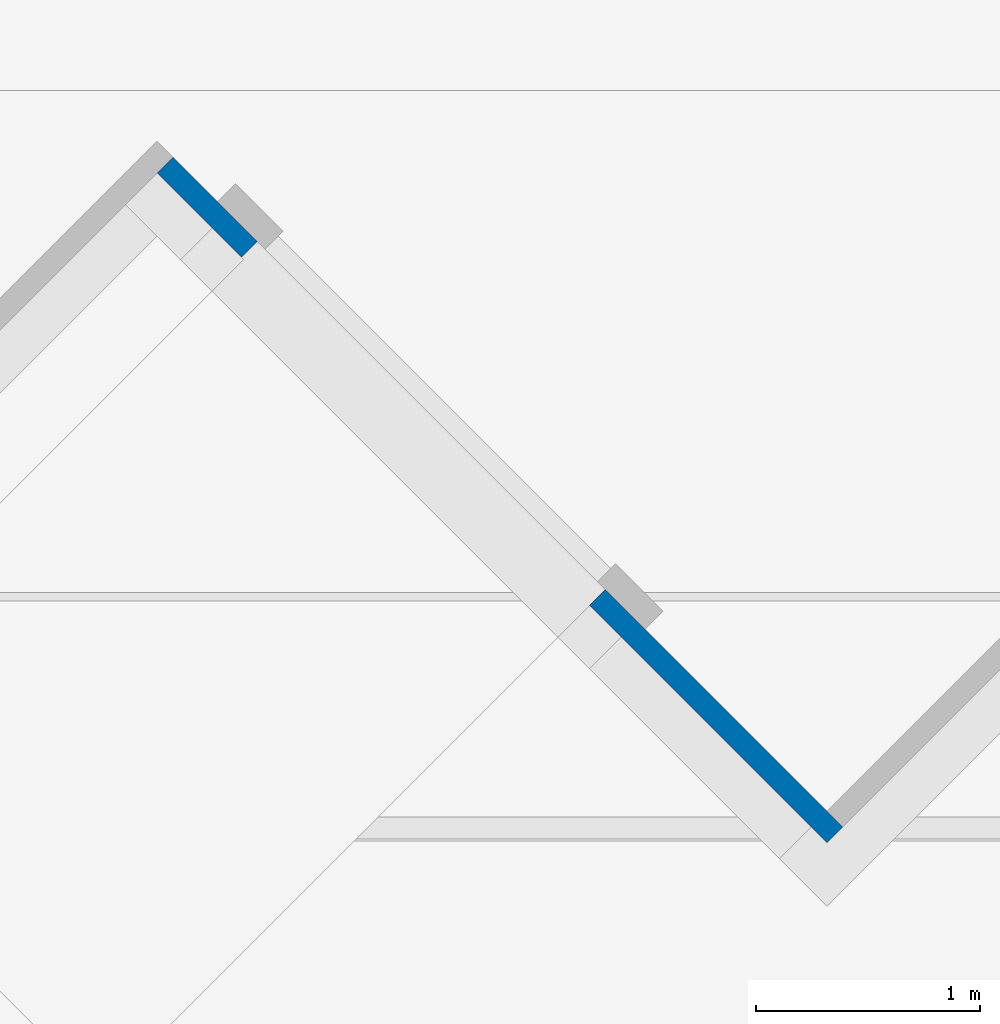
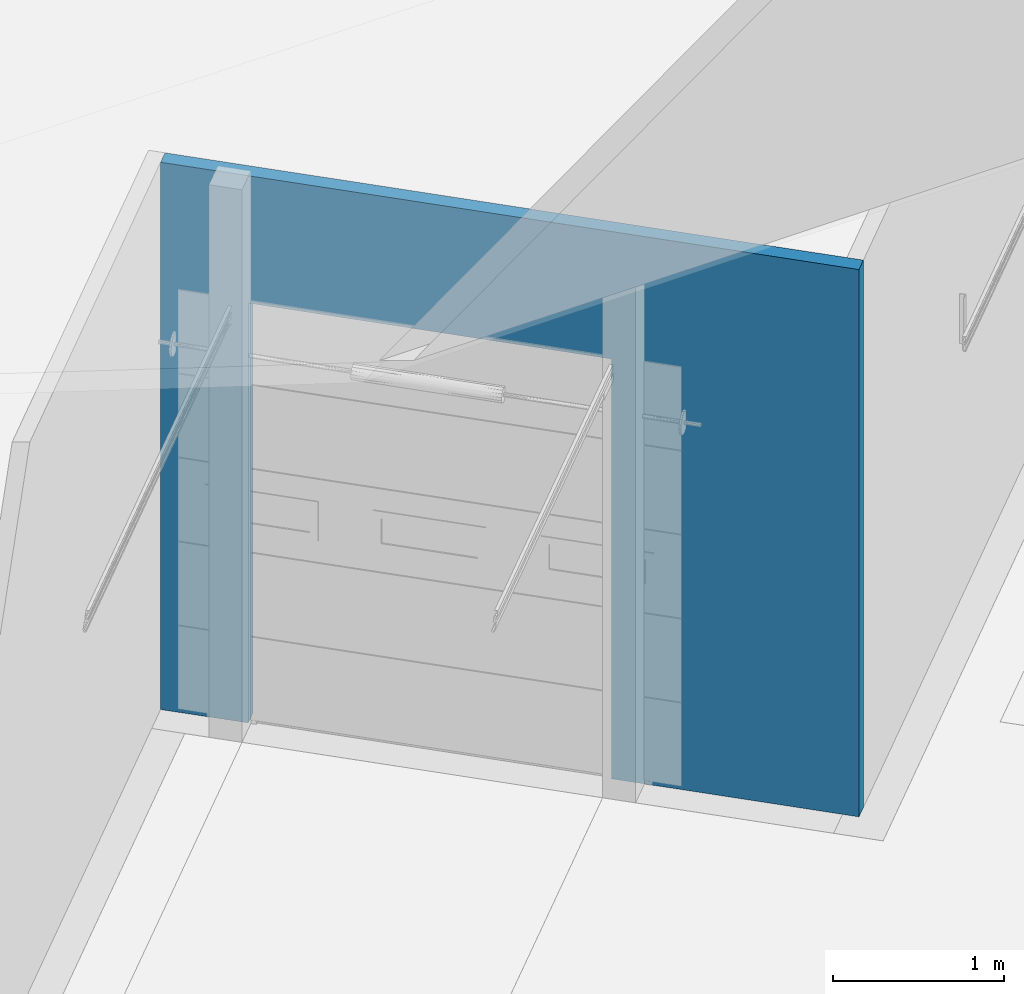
# One storey, part 48 of 64: 1 wall, 1 opening.
"""IFC2X3 building model written with IfcOpenShell, lengths in millimetres."""

from ifc_helpers import new_model, entity, si_unit, converted_unit, derived_unit, direction, frame, frame_2d, origin, place, context, subcontext, project, spatial, rectangle, extrude, material, layer, layer_set, layer_usage, type_object, element, save


model = new_model("IFC2X3")

# Units and contexts
model_context = context("Model", 3, precision=0.01, world=origin(), true_north=direction((4.05803320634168e-15, -1.0)))
body_context = subcontext(model_context, "Body", "Model", "MODEL_VIEW")
ifc_project = project(units=[si_unit("LENGTHUNIT", "METRE", prefix="MILLI"), si_unit("AREAUNIT", "SQUARE_METRE"), si_unit("VOLUMEUNIT", "CUBIC_METRE"), converted_unit("PLANEANGLEUNIT", "DEGREE", entity("IfcRatioMeasure", 0.0174532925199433), si_unit("PLANEANGLEUNIT", "RADIAN"), dimensions=[0, 0, 0, 0, 0, 0, 0]), si_unit("MASSUNIT", "GRAM", prefix="KILO"), derived_unit("MASSDENSITYUNIT", [(si_unit("MASSUNIT", "GRAM", prefix="KILO"), 1), (si_unit("LENGTHUNIT", "METRE"), -3)]), si_unit("TIMEUNIT", "SECOND"), si_unit("FREQUENCYUNIT", "HERTZ"), si_unit("THERMODYNAMICTEMPERATUREUNIT", "DEGREE_CELSIUS"), derived_unit("THERMALTRANSMITTANCEUNIT", [(si_unit("MASSUNIT", "GRAM", prefix="KILO"), 1), (si_unit("THERMODYNAMICTEMPERATUREUNIT", "KELVIN"), -1), (si_unit("TIMEUNIT", "SECOND"), -3)]), derived_unit("VOLUMETRICFLOWRATEUNIT", [(si_unit("LENGTHUNIT", "METRE"), 3), (si_unit("TIMEUNIT", "SECOND"), -1)]), si_unit("ELECTRICCURRENTUNIT", "AMPERE"), si_unit("ELECTRICVOLTAGEUNIT", "VOLT"), si_unit("POWERUNIT", "WATT"), si_unit("FORCEUNIT", "NEWTON", prefix="KILO"), si_unit("ILLUMINANCEUNIT", "LUX"), si_unit("LUMINOUSFLUXUNIT", "LUMEN"), si_unit("LUMINOUSINTENSITYUNIT", "CANDELA"), derived_unit("USERDEFINED", [(si_unit("MASSUNIT", "GRAM", prefix="KILO"), -1), (si_unit("LENGTHUNIT", "METRE"), -2), (si_unit("TIMEUNIT", "SECOND"), 3), (si_unit("LUMINOUSFLUXUNIT", "LUMEN"), 1)]), derived_unit("LINEARVELOCITYUNIT", [(si_unit("LENGTHUNIT", "METRE"), 1), (si_unit("TIMEUNIT", "SECOND"), -1)]), si_unit("PRESSUREUNIT", "PASCAL"), derived_unit("USERDEFINED", [(si_unit("LENGTHUNIT", "METRE"), -2), (si_unit("MASSUNIT", "GRAM", prefix="KILO"), 1), (si_unit("TIMEUNIT", "SECOND"), -2)])], contexts=[model_context])

# Site, building, storey
site_placement = place(None, frame((927466.849349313, 583801.882853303, 0.0), z_axis=(0.0, 0.0, 1.0), x_axis=(-1.0, 0.0, 0.0)))
site = spatial("IfcSite", under=ifc_project, at=site_placement, Name="Surface", CompositionType="ELEMENT")
building_placement = place(site_placement, origin())
building = spatial("IfcBuilding", under=site, at=building_placement, CompositionType="ELEMENT")
storey_placement = place(building_placement, frame((0.0, 0.0, 44170.0)))
storey = spatial("IfcBuildingStorey", under=building, at=storey_placement, Name="Ground FFL", CompositionType="ELEMENT", Elevation=44170.0)

# Wall, opening
ifc_material = material(Name="Isopenal")
ifc_layer = layer(ifc_material, 100.0)
ifc_layer_set = layer_set([ifc_layer], Name="Basic Wall:Isopanel")
ifc_layer_usage = layer_usage(ifc_layer_set, "AXIS2", "POSITIVE", -50.0)
wall_type = type_object("IfcWallType", Name="Basic Wall:Isopanel", PredefinedType="STANDARD", material=ifc_layer_set)
wall_placement = place(storey_placement, frame((-122981.746797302, -30575.5946140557, 0.0), z_axis=(0.0, 0.0, 1.0), x_axis=(0.707106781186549, -0.707106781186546, 0.0)))
wall = element("IfcWallStandardCase", 1, at=wall_placement, inside=storey, type_object=wall_type, material=ifc_layer_usage, Name="Basic Wall:Isopanel", ObjectType="Basic Wall:Isopanel", context=body_context, shape_type="SweptSolid", body=[
    extrude(rectangle(XDim=4232.26267936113, YDim=99.9999999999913, at=frame_2d((2116.13133968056, 8.13571432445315e-13), x_axis=(-1.0, 0.0))), origin(), (0.0, 0.0, 1.0), 3910.35154955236),
])
opening_placement = place(wall_placement, frame((1500.21531181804, -50.0, 0.0)))
element("IfcOpeningElement", 2, at=opening_placement, cuts=wall, Name="6m_Roller Shutter Doors:3000(w) x 3000(h):1", ObjectType="Opening", context=body_context, shape_type="SweptSolid", body=[
    extrude(rectangle(XDim=3000.0, YDim=2200.0, at=frame_2d((1500.0, 1100.00000000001), x_axis=(1.0, 0.0))), frame((0.0, 0.0, 0.0), z_axis=(0.0, 1.0, 0.0), x_axis=(0.0, 0.0, 1.0)), (0.0, 0.0, 1.0), 100.0),
])

save(model, "model.ifc")
